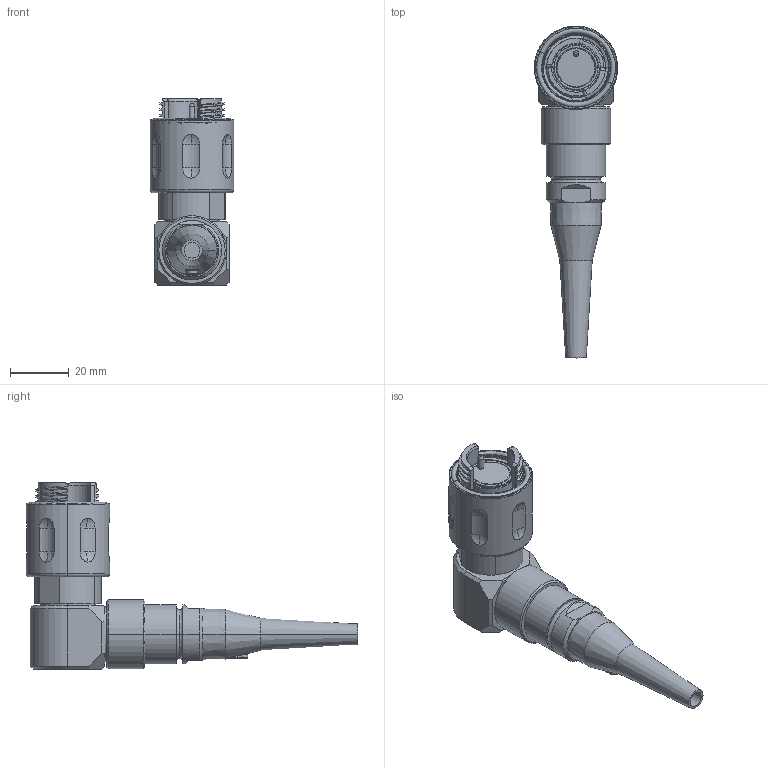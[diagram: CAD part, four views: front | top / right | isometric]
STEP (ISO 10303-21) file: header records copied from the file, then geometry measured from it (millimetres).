
FILE_DESCRIPTION (( 'STEP AP214' ), '1' );
FILE_NAME ('QMINI90S-PEXX-XXXX-SXX.STEP', '2025-05-22T23:24:54', ( '' ), ( '' ), 'SwSTEP 2.0', 'SolidWorks 2024', '' );
FILE_SCHEMA (( 'AUTOMOTIVE_DESIGN' ));
Length unit declared in the file: inch
Products named in the file (1): QMINI90S-PEXX-XXXX-SXX
Bounding box: 28.34 x 112.7 x 63.3 mm (x, y, z)
Volume: 44781.1 mm3; surface area: 17537 mm2
Topology: 1 solids, 5 shells, 359 faces, 864 edges, 550 vertices
Faces by surface type: cylinder 125, plane 94, cone 55, bspline 32, torus 29, sphere 24
Entity records: 14818 total; most frequent: CARTESIAN_POINT 6698, ORIENTED_EDGE 1728, DIRECTION 1660, EDGE_CURVE 864, AXIS2_PLACEMENT_3D 671, VERTEX_POINT 550, EDGE_LOOP 402, ADVANCED_FACE 359
